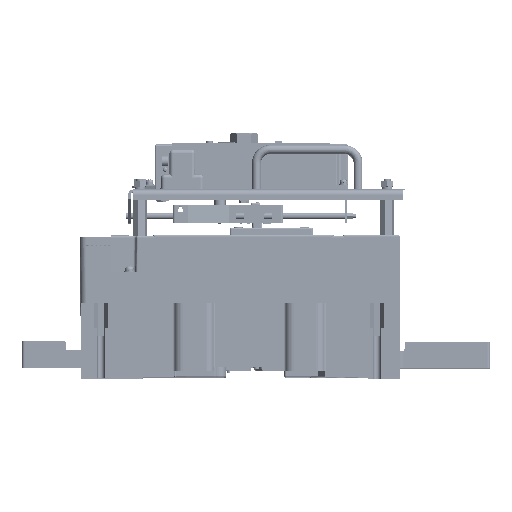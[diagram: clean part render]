
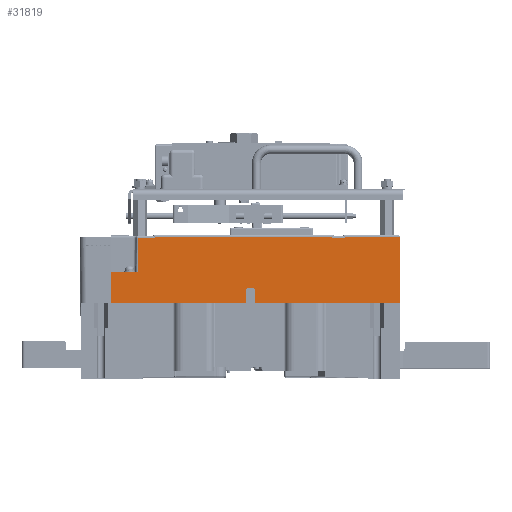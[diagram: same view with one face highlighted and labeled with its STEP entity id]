
A CAD part, top view. The second image highlights one B-rep face of the part: STEP entity #31819.
In plain terms, the highlighted planar face has unit normal (0, 0, 1).
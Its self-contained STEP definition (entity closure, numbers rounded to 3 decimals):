
#9868 = CARTESIAN_POINT ( 'NONE',  ( 92.958, 127.479, 241.699 ) ) ;
#10022 = CARTESIAN_POINT ( 'NONE',  ( 308.023, 126.279, 241.699 ) ) ;
#10026 = CARTESIAN_POINT ( 'NONE',  ( 293.648, 127.479, 241.699 ) ) ;
#10029 = CARTESIAN_POINT ( 'NONE',  ( 73.658, 126.279, 241.699 ) ) ;
#10033 = CARTESIAN_POINT ( 'NONE',  ( 308.023, 127.479, 241.699 ) ) ;
#10038 = CARTESIAN_POINT ( 'NONE',  ( 293.648, 126.279, 241.699 ) ) ;
#10043 = CARTESIAN_POINT ( 'NONE',  ( 92.958, 126.279, 241.699 ) ) ;
#10060 = CARTESIAN_POINT ( 'NONE',  ( 42.958, 86.979, 241.699 ) ) ;
#10078 = CARTESIAN_POINT ( 'NONE',  ( 73.315, 86.979, 241.699 ) ) ;
#24539 = CARTESIAN_POINT ( 'NONE',  ( 368.673, 52.629, 241.699 ) ) ;
#24544 = DIRECTION ( 'NONE',  ( 1., 0., 0. ) ) ;
#31819 = ADVANCED_FACE ( 'NONE', ( #265071 ), #414125, .F. ) ;
#43150 = EDGE_LOOP ( 'NONE', ( #137048, #137060, #137073, #137086, #137101, #137113, #137126, #137138, #353685, #353705, #353729, #353749 ) ) ;
#130767 = EDGE_CURVE ( 'NONE', #390136, #389956, #161430, .T. ) ;
#132080 = EDGE_CURVE ( 'NONE', #442000, #442116, #217147, .T. ) ;
#132085 = EDGE_CURVE ( 'NONE', #442076, #442116, #217178, .T. ) ;
#132091 = EDGE_CURVE ( 'NONE', #390136, #442076, #217196, .T. ) ;
#132097 = EDGE_CURVE ( 'NONE', #391522, #389956, #217209, .T. ) ;
#132100 = EDGE_CURVE ( 'NONE', #391522, #442008, #217229, .T. ) ;
#132104 = EDGE_CURVE ( 'NONE', #442008, #442016, #217247, .T. ) ;
#132110 = EDGE_CURVE ( 'NONE', #442016, #442018, #217266, .T. ) ;
#132114 = EDGE_CURVE ( 'NONE', #442018, #442024, #217279, .T. ) ;
#132119 = EDGE_CURVE ( 'NONE', #442024, #441684, #217299, .T. ) ;
#132126 = EDGE_CURVE ( 'NONE', #441684, #442027, #217319, .T. ) ;
#132129 = EDGE_CURVE ( 'NONE', #442027, #442000, #217339, .T. ) ;
#137048 = ORIENTED_EDGE ( 'NONE', *, *, #132080, .T. ) ;
#137060 = ORIENTED_EDGE ( 'NONE', *, *, #132085, .F. ) ;
#137073 = ORIENTED_EDGE ( 'NONE', *, *, #132091, .F. ) ;
#137086 = ORIENTED_EDGE ( 'NONE', *, *, #130767, .T. ) ;
#137101 = ORIENTED_EDGE ( 'NONE', *, *, #132097, .F. ) ;
#137113 = ORIENTED_EDGE ( 'NONE', *, *, #132100, .T. ) ;
#137126 = ORIENTED_EDGE ( 'NONE', *, *, #132104, .T. ) ;
#137138 = ORIENTED_EDGE ( 'NONE', *, *, #132110, .T. ) ;
#154570 = AXIS2_PLACEMENT_3D ( 'NONE', #414110, #414132, #414135 ) ;
#161430 = LINE ( 'NONE', #24539, #161448 ) ;
#161448 = VECTOR ( 'NONE', #24544, 1000. ) ;
#217147 = LINE ( 'NONE', #273419, #217174 ) ;
#217174 = VECTOR ( 'NONE', #273459, 1000. ) ;
#217178 = LINE ( 'NONE', #273478, #217190 ) ;
#217190 = VECTOR ( 'NONE', #273486, 1000. ) ;
#217196 = LINE ( 'NONE', #273482, #217205 ) ;
#217205 = VECTOR ( 'NONE', #273451, 1000. ) ;
#217209 = LINE ( 'NONE', #273520, #217223 ) ;
#217223 = VECTOR ( 'NONE', #273525, 1000. ) ;
#217229 = LINE ( 'NONE', #273536, #217242 ) ;
#217242 = VECTOR ( 'NONE', #273543, 1000. ) ;
#217247 = LINE ( 'NONE', #273555, #217262 ) ;
#217262 = VECTOR ( 'NONE', #273561, 1000. ) ;
#217266 = LINE ( 'NONE', #273495, #217273 ) ;
#217273 = VECTOR ( 'NONE', #273497, 1000. ) ;
#217279 = LINE ( 'NONE', #273598, #217294 ) ;
#217294 = VECTOR ( 'NONE', #273603, 1000. ) ;
#217299 = LINE ( 'NONE', #273616, #217314 ) ;
#217314 = VECTOR ( 'NONE', #273619, 1000. ) ;
#217319 = LINE ( 'NONE', #273632, #217334 ) ;
#217334 = VECTOR ( 'NONE', #273638, 1000. ) ;
#217339 = LINE ( 'NONE', #273651, #217351 ) ;
#217351 = VECTOR ( 'NONE', #273657, 1000. ) ;
#265071 = FACE_OUTER_BOUND ( 'NONE', #43150, .T. ) ;
#273419 = CARTESIAN_POINT ( 'NONE',  ( 73.709, 132.053, 241.699 ) ) ;
#273451 = DIRECTION ( 'NONE',  ( 0., 1., 0. ) ) ;
#273459 = DIRECTION ( 'NONE',  ( -0.009, -1., 0. ) ) ;
#273478 = CARTESIAN_POINT ( 'NONE',  ( 57.315, 86.979, 241.699 ) ) ;
#273482 = CARTESIAN_POINT ( 'NONE',  ( 42.958, 52.629, 241.699 ) ) ;
#273486 = DIRECTION ( 'NONE',  ( 1., 0., 0. ) ) ;
#273495 = CARTESIAN_POINT ( 'NONE',  ( 368.673, 126.279, 241.699 ) ) ;
#273497 = DIRECTION ( 'NONE',  ( -1., 0., 0. ) ) ;
#273520 = CARTESIAN_POINT ( 'NONE',  ( 370.373, 129.479, 241.699 ) ) ;
#273525 = DIRECTION ( 'NONE',  ( 0., -1., 0. ) ) ;
#273536 = CARTESIAN_POINT ( 'NONE',  ( 306.023, 127.479, 241.699 ) ) ;
#273543 = DIRECTION ( 'NONE',  ( -1., 0., 0. ) ) ;
#273555 = CARTESIAN_POINT ( 'NONE',  ( 308.023, 129.479, 241.699 ) ) ;
#273561 = DIRECTION ( 'NONE',  ( 0., -1., 0. ) ) ;
#273598 = CARTESIAN_POINT ( 'NONE',  ( 293.648, 129.479, 241.699 ) ) ;
#273603 = DIRECTION ( 'NONE',  ( 0., 1., 0. ) ) ;
#273616 = CARTESIAN_POINT ( 'NONE',  ( 90.958, 127.479, 241.699 ) ) ;
#273619 = DIRECTION ( 'NONE',  ( -1., 0., 0. ) ) ;
#273632 = CARTESIAN_POINT ( 'NONE',  ( 92.958, 129.479, 241.699 ) ) ;
#273638 = DIRECTION ( 'NONE',  ( 0., -1., 0. ) ) ;
#273651 = CARTESIAN_POINT ( 'NONE',  ( 368.673, 126.279, 241.699 ) ) ;
#273657 = DIRECTION ( 'NONE',  ( -1., 0., 0. ) ) ;
#353685 = ORIENTED_EDGE ( 'NONE', *, *, #132114, .T. ) ;
#353705 = ORIENTED_EDGE ( 'NONE', *, *, #132119, .T. ) ;
#353729 = ORIENTED_EDGE ( 'NONE', *, *, #132126, .T. ) ;
#353749 = ORIENTED_EDGE ( 'NONE', *, *, #132129, .T. ) ;
#389956 = VERTEX_POINT ( 'NONE', #513428 ) ;
#390136 = VERTEX_POINT ( 'NONE', #513574 ) ;
#391522 = VERTEX_POINT ( 'NONE', #514737 ) ;
#414110 = CARTESIAN_POINT ( 'NONE',  ( 368.673, 129.479, 241.699 ) ) ;
#414125 = PLANE ( 'NONE',  #154570 ) ;
#414132 = DIRECTION ( 'NONE',  ( 0., 0., -1. ) ) ;
#414135 = DIRECTION ( 'NONE',  ( -1., 0., 0. ) ) ;
#441684 = VERTEX_POINT ( 'NONE', #9868 ) ;
#442000 = VERTEX_POINT ( 'NONE', #10029 ) ;
#442008 = VERTEX_POINT ( 'NONE', #10033 ) ;
#442016 = VERTEX_POINT ( 'NONE', #10022 ) ;
#442018 = VERTEX_POINT ( 'NONE', #10038 ) ;
#442024 = VERTEX_POINT ( 'NONE', #10026 ) ;
#442027 = VERTEX_POINT ( 'NONE', #10043 ) ;
#442076 = VERTEX_POINT ( 'NONE', #10060 ) ;
#442116 = VERTEX_POINT ( 'NONE', #10078 ) ;
#513428 = CARTESIAN_POINT ( 'NONE',  ( 370.373, 52.629, 241.699 ) ) ;
#513574 = CARTESIAN_POINT ( 'NONE',  ( 42.958, 52.629, 241.699 ) ) ;
#514737 = CARTESIAN_POINT ( 'NONE',  ( 370.373, 127.479, 241.699 ) ) ;
